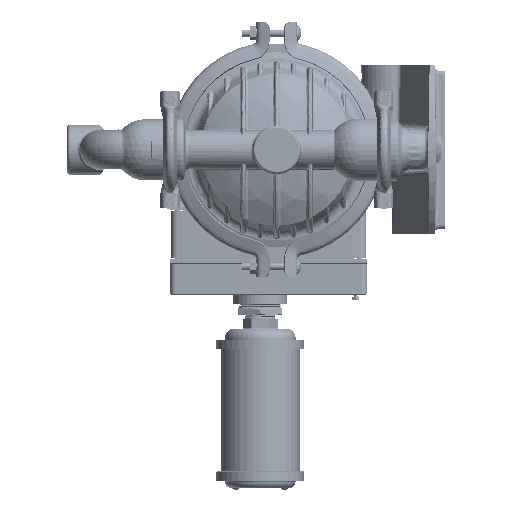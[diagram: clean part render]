
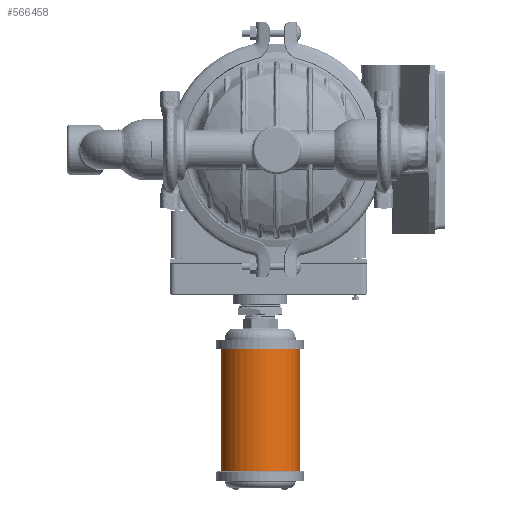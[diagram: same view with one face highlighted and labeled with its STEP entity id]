
A CAD part, left-side view. The second image highlights one B-rep face of the part: STEP entity #566458.
In plain terms, the highlighted cylindrical face has radius 45.339 mm (diameter 90.678 mm), a partial arc.
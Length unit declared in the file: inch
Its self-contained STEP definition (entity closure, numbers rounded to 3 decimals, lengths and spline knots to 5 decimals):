
#31096 = CYLINDRICAL_SURFACE ( 'NONE', #650760, 1.785 ) ;
#64982 = AXIS2_PLACEMENT_3D ( 'NONE', #560807, #402400, #554220 ) ;
#72014 = EDGE_CURVE ( 'NONE', #145304, #540402, #569917, .T. ) ;
#114348 = DIRECTION ( 'NONE',  ( 0., 0., -1. ) ) ;
#145304 = VERTEX_POINT ( 'NONE', #369448 ) ;
#155729 = VERTEX_POINT ( 'NONE', #475905 ) ;
#170782 = DIRECTION ( 'NONE',  ( 0., 1., 0. ) ) ;
#193260 = EDGE_CURVE ( 'NONE', #585897, #155729, #301043, .T. ) ;
#199794 = DIRECTION ( 'NONE',  ( 0., 0., -1. ) ) ;
#207446 = ORIENTED_EDGE ( 'NONE', *, *, #407787, .T. ) ;
#237103 = CARTESIAN_POINT ( 'NONE',  ( 0., 2.535, -8.983 ) ) ;
#244456 = ORIENTED_EDGE ( 'NONE', *, *, #193260, .T. ) ;
#249944 = CARTESIAN_POINT ( 'NONE',  ( 0., 2.535, -8.983 ) ) ;
#281284 = AXIS2_PLACEMENT_3D ( 'NONE', #373277, #408117, #170782 ) ;
#301043 = LINE ( 'NONE', #237103, #367313 ) ;
#335231 = CIRCLE ( 'NONE', #281284, 1.785 ) ;
#362242 = CARTESIAN_POINT ( 'NONE',  ( 0., -1.035, -14.483 ) ) ;
#362321 = EDGE_CURVE ( 'NONE', #585897, #145304, #452829, .T. ) ;
#367313 = VECTOR ( 'NONE', #199794, 39.37008 ) ;
#369448 = CARTESIAN_POINT ( 'NONE',  ( 0., -1.035, -8.983 ) ) ;
#373277 = CARTESIAN_POINT ( 'NONE',  ( 0., 0.75, -14.483 ) ) ;
#392169 = DIRECTION ( 'NONE',  ( 0., 0., 1. ) ) ;
#402400 = DIRECTION ( 'NONE',  ( 0., 0., 1. ) ) ;
#407787 = EDGE_CURVE ( 'NONE', #155729, #540402, #335231, .T. ) ;
#408117 = DIRECTION ( 'NONE',  ( 0., 0., 1. ) ) ;
#419122 = EDGE_LOOP ( 'NONE', ( #207446, #628471, #633045, #244456 ) ) ;
#452829 = CIRCLE ( 'NONE', #64982, 1.785 ) ;
#475905 = CARTESIAN_POINT ( 'NONE',  ( 0., 2.535, -14.483 ) ) ;
#493369 = FACE_OUTER_BOUND ( 'NONE', #419122, .T. ) ;
#540402 = VERTEX_POINT ( 'NONE', #362242 ) ;
#554220 = DIRECTION ( 'NONE',  ( 0., 1., 0. ) ) ;
#560807 = CARTESIAN_POINT ( 'NONE',  ( 0., 0.75, -8.983 ) ) ;
#566458 = ADVANCED_FACE ( 'NONE', ( #493369 ), #31096, .T. ) ;
#569917 = LINE ( 'NONE', #576552, #609422 ) ;
#576552 = CARTESIAN_POINT ( 'NONE',  ( 0., -1.035, -8.983 ) ) ;
#585897 = VERTEX_POINT ( 'NONE', #249944 ) ;
#597902 = DIRECTION ( 'NONE',  ( 0., -1., 0. ) ) ;
#609422 = VECTOR ( 'NONE', #114348, 39.37008 ) ;
#628471 = ORIENTED_EDGE ( 'NONE', *, *, #72014, .F. ) ;
#633045 = ORIENTED_EDGE ( 'NONE', *, *, #362321, .F. ) ;
#648542 = CARTESIAN_POINT ( 'NONE',  ( 0., 0.75, -15.592 ) ) ;
#650760 = AXIS2_PLACEMENT_3D ( 'NONE', #648542, #392169, #597902 ) ;
